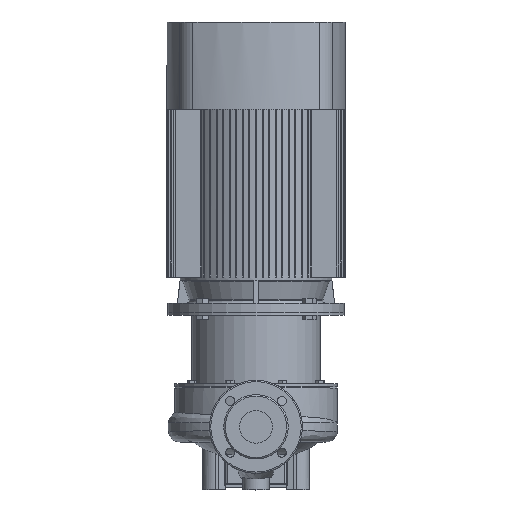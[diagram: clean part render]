
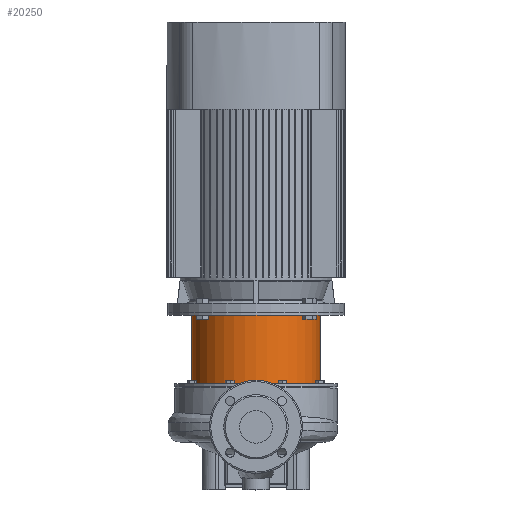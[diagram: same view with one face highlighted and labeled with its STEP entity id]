
A CAD part, top view. The second image highlights one B-rep face of the part: STEP entity #20250.
In plain terms, the highlighted cylindrical face has radius 128 mm (diameter 256 mm), a partial arc.
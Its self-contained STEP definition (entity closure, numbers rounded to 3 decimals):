
#773 = VERTEX_POINT ( 'NONE', #27835 ) ;
#1815 = AXIS2_PLACEMENT_3D ( 'NONE', #2176, #15888, #23122 ) ;
#2089 = LINE ( 'NONE', #10878, #7909 ) ;
#2176 = CARTESIAN_POINT ( 'NONE',  ( 0., 0., -142. ) ) ;
#2335 = ORIENTED_EDGE ( 'NONE', *, *, #24353, .F. ) ;
#2727 = CYLINDRICAL_SURFACE ( 'NONE', #9668, 128. ) ;
#4773 = CARTESIAN_POINT ( 'NONE',  ( 0., 0., -6. ) ) ;
#5037 = DIRECTION ( 'NONE',  ( 1., 0., 0. ) ) ;
#5077 = EDGE_CURVE ( 'NONE', #773, #18339, #11359, .T. ) ;
#6602 = EDGE_CURVE ( 'NONE', #14105, #19150, #2089, .T. ) ;
#7909 = VECTOR ( 'NONE', #27813, 1000. ) ;
#9058 = DIRECTION ( 'NONE',  ( 0., 0., 1. ) ) ;
#9668 = AXIS2_PLACEMENT_3D ( 'NONE', #14430, #21215, #5037 ) ;
#9812 = FACE_OUTER_BOUND ( 'NONE', #20594, .T. ) ;
#10767 = CARTESIAN_POINT ( 'NONE',  ( 128., 0., 14.36 ) ) ;
#10878 = CARTESIAN_POINT ( 'NONE',  ( -128., 0., 14.36 ) ) ;
#11189 = CARTESIAN_POINT ( 'NONE',  ( -128., 0., -142. ) ) ;
#11359 = LINE ( 'NONE', #10767, #13358 ) ;
#12656 = CIRCLE ( 'NONE', #1815, 128. ) ;
#13358 = VECTOR ( 'NONE', #9058, 1000. ) ;
#14105 = VERTEX_POINT ( 'NONE', #11189 ) ;
#14430 = CARTESIAN_POINT ( 'NONE',  ( 0., 0., 14.36 ) ) ;
#14459 = DIRECTION ( 'NONE',  ( 0., 0., 1. ) ) ;
#15888 = DIRECTION ( 'NONE',  ( 0., 0., 1. ) ) ;
#15940 = EDGE_CURVE ( 'NONE', #14105, #773, #12656, .T. ) ;
#16007 = CARTESIAN_POINT ( 'NONE',  ( 128., 0., -6. ) ) ;
#16871 = AXIS2_PLACEMENT_3D ( 'NONE', #4773, #14459, #30332 ) ;
#18339 = VERTEX_POINT ( 'NONE', #16007 ) ;
#18768 = ORIENTED_EDGE ( 'NONE', *, *, #5077, .T. ) ;
#19150 = VERTEX_POINT ( 'NONE', #26287 ) ;
#20250 = ADVANCED_FACE ( 'NONE', ( #9812 ), #2727, .T. ) ;
#20594 = EDGE_LOOP ( 'NONE', ( #26680, #27975, #18768, #2335 ) ) ;
#21215 = DIRECTION ( 'NONE',  ( 0., 0., 1. ) ) ;
#23122 = DIRECTION ( 'NONE',  ( 1., 0., 0. ) ) ;
#23255 = CIRCLE ( 'NONE', #16871, 128. ) ;
#24353 = EDGE_CURVE ( 'NONE', #19150, #18339, #23255, .T. ) ;
#26287 = CARTESIAN_POINT ( 'NONE',  ( -128., 0., -6. ) ) ;
#26680 = ORIENTED_EDGE ( 'NONE', *, *, #6602, .F. ) ;
#27813 = DIRECTION ( 'NONE',  ( 0., 0., 1. ) ) ;
#27835 = CARTESIAN_POINT ( 'NONE',  ( 128., 0., -142. ) ) ;
#27975 = ORIENTED_EDGE ( 'NONE', *, *, #15940, .T. ) ;
#30332 = DIRECTION ( 'NONE',  ( 1., 0., 0. ) ) ;
